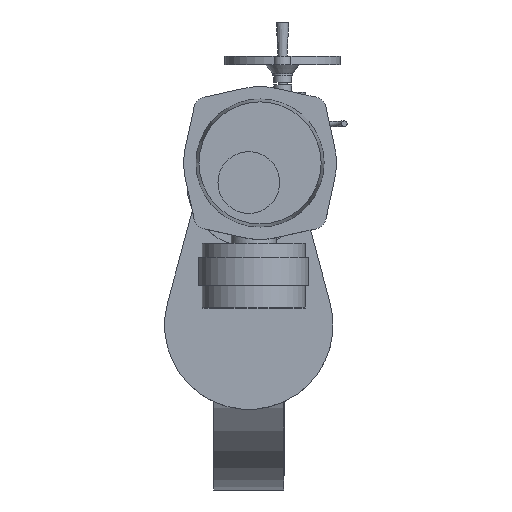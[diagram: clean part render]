
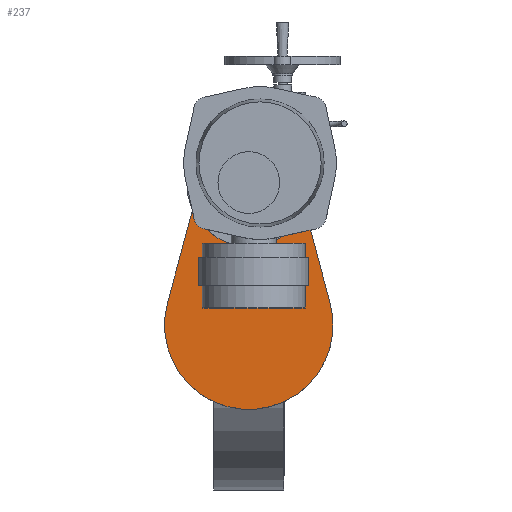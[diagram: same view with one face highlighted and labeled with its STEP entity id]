
A CAD part, top view. The second image highlights one B-rep face of the part: STEP entity #237.
In plain terms, the highlighted planar face has unit normal (0, 0, 1).
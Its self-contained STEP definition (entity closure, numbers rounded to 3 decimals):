
#237=ADVANCED_FACE('',(#8117),#8119,.F.);
#8117=FACE_BOUND('',#8118,.T.);
#8118=EDGE_LOOP('',(#14362,#14363,#14364,#14365,#14366));
#8119=PLANE('',#8120);
#8120=AXIS2_PLACEMENT_3D('',#8121,#8122,#8123);
#8121=CARTESIAN_POINT('',(20.,288.,570.));
#8122=DIRECTION('',(0.,0.,-1.));
#8123=DIRECTION('',(0.,1.,0.));
#14362=ORIENTED_EDGE('',*,*,#19076,.T.);
#14363=ORIENTED_EDGE('',*,*,#19077,.T.);
#14364=ORIENTED_EDGE('',*,*,#19078,.F.);
#14365=ORIENTED_EDGE('',*,*,#19050,.F.);
#14366=ORIENTED_EDGE('',*,*,#19079,.F.);
#19050=EDGE_CURVE('',#21444,#21445,#21446,.T.);
#19076=EDGE_CURVE('',#21493,#21494,#21495,.F.);
#19077=EDGE_CURVE('',#21494,#21496,#21497,.F.);
#19078=EDGE_CURVE('',#21445,#21496,#21498,.T.);
#19079=EDGE_CURVE('',#21493,#21444,#21499,.T.);
#21444=VERTEX_POINT('',#25505);
#21445=VERTEX_POINT('',#25506);
#21446=CIRCLE('',#25507,150.);
#21493=VERTEX_POINT('',#25630);
#21494=VERTEX_POINT('',#25631);
#21495=CIRCLE('',#25632,85.);
#21496=VERTEX_POINT('',#25636);
#21497=CIRCLE('',#25637,85.);
#21498=LINE('',#25641,#25642);
#21499=LINE('',#25644,#25645);
#25505=CARTESIAN_POINT('',(144.841,39.,570.));
#25506=CARTESIAN_POINT('',(-144.841,39.,570.));
#25507=AXIS2_PLACEMENT_3D('',#25508,#25509,#25510);
#25508=CARTESIAN_POINT('',(0.,0.,570.));
#25509=DIRECTION('',(0.,0.,-1.));
#25510=DIRECTION('',(0.966,0.26,0.));
#25630=CARTESIAN_POINT('',(82.077,272.1,570.));
#25631=CARTESIAN_POINT('',(0.,165.,570.));
#25632=AXIS2_PLACEMENT_3D('',#25633,#25634,#25635);
#25633=CARTESIAN_POINT('',(0.,250.,570.));
#25634=DIRECTION('',(0.,0.,1.));
#25635=DIRECTION('',(0.,-1.,0.));
#25636=CARTESIAN_POINT('',(-82.077,272.1,570.));
#25637=AXIS2_PLACEMENT_3D('',#25638,#25639,#25640);
#25638=CARTESIAN_POINT('',(0.,250.,570.));
#25639=DIRECTION('',(0.,0.,1.));
#25640=DIRECTION('',(-0.966,0.26,0.));
#25641=CARTESIAN_POINT('',(-144.841,39.,570.));
#25642=VECTOR('',#25643,1.);
#25643=DIRECTION('',(0.26,0.966,0.));
#25644=CARTESIAN_POINT('',(82.077,272.1,570.));
#25645=VECTOR('',#25646,1.);
#25646=DIRECTION('',(0.26,-0.966,0.));
